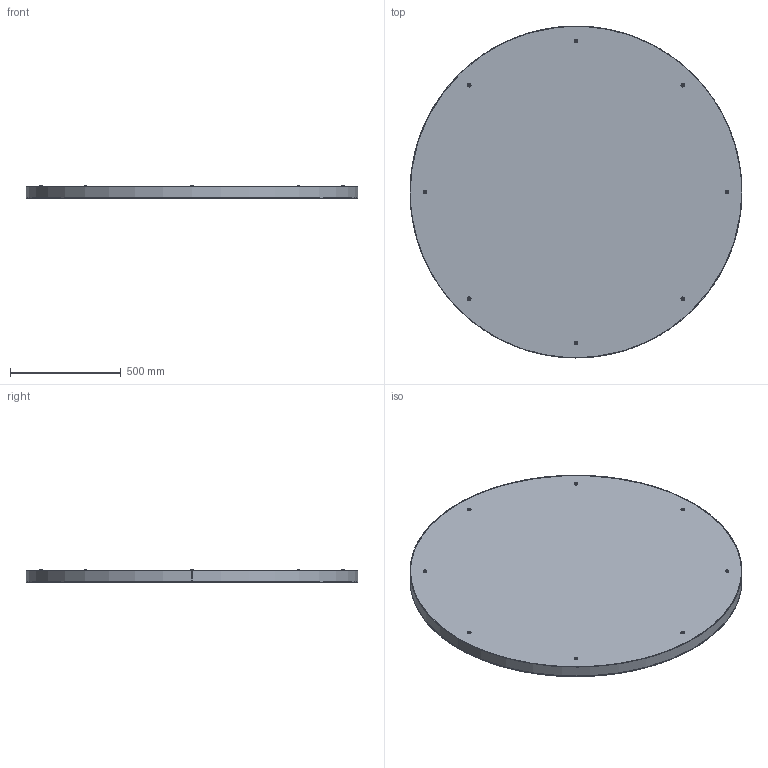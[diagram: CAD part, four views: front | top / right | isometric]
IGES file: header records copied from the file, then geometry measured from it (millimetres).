
Start section: SolidWorks IGES file using analytic representation for surfaces
Global section: file name: \\srvficheros\grupos\DISENYO\DESARROLLO DE PRODUCTO\_3D_WEB\LONDON-P3760772\LONDON-P3760772.IGS; native system: SolidWorks 2025; preprocessor: SolidWorks 2025; author: d.pons; date: 260114.115125; units: millimetre
Bounding box: 1500 x 1500 x 58 mm (x, y, z)
Surface area: 7592283.6 mm2 (no closed solid volume)
Topology: 0 solids, 0 shells, 146 faces, 2384 edges, 2384 vertices
Faces by surface type: bspline 90, revolution 56
